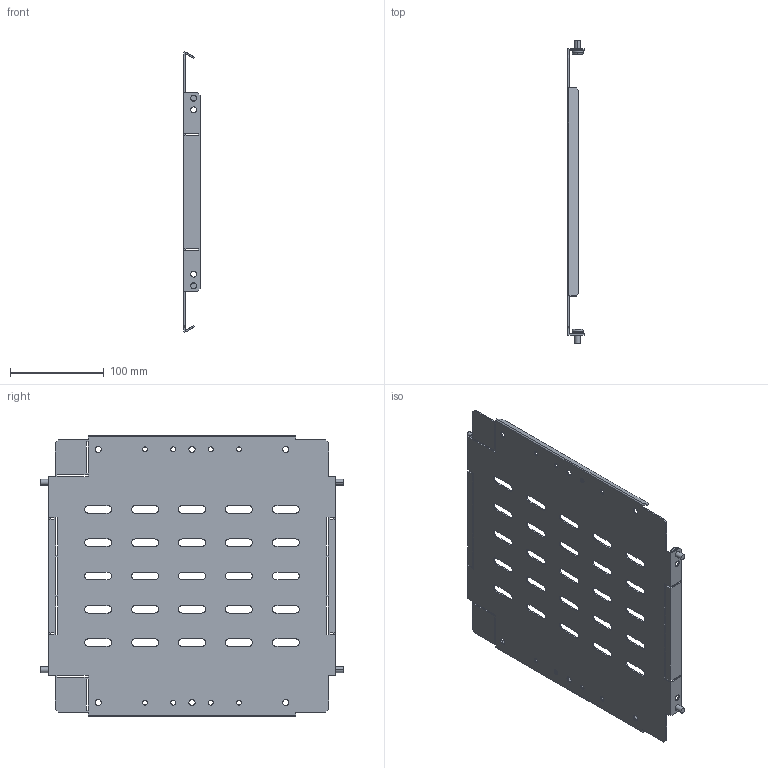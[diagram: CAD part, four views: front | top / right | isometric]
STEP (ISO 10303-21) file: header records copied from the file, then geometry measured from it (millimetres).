
FILE_DESCRIPTION (( 'STEP AP214' ), '1' );
FILE_NAME ('FO-00-SWV-030-040 Ïåðåãîðîäêà ñåêöèîíèðîâàíèÿ âåðòèêàëüíàÿ 300õ400 ìì.STEP', '2025-08-11T07:52:37', ( '' ), ( '' ), 'SwSTEP 2.0', 'SolidWorks 2023', '' );
FILE_SCHEMA (( 'AUTOMOTIVE_DESIGN' ));
Length unit declared in the file: millimetre
Products named in the file (1): FO-00-SWV-030-040 Перегородка секционирования вертикальная 300х400 мм
Bounding box: 17.5 x 322.5 x 298.93 mm (x, y, z)
Volume: 143424.6 mm3; surface area: 196369.5 mm2
Topology: 1 solids, 1 shells, 352 faces, 1002 edges, 660 vertices
Faces by surface type: plane 218, cylinder 110, torus 16, cone 8
Entity records: 11685 total; most frequent: CARTESIAN_POINT 2015, ORIENTED_EDGE 2004, DIRECTION 1968, EDGE_CURVE 1002, VECTOR 742, LINE 742, VERTEX_POINT 660, AXIS2_PLACEMENT_3D 613
